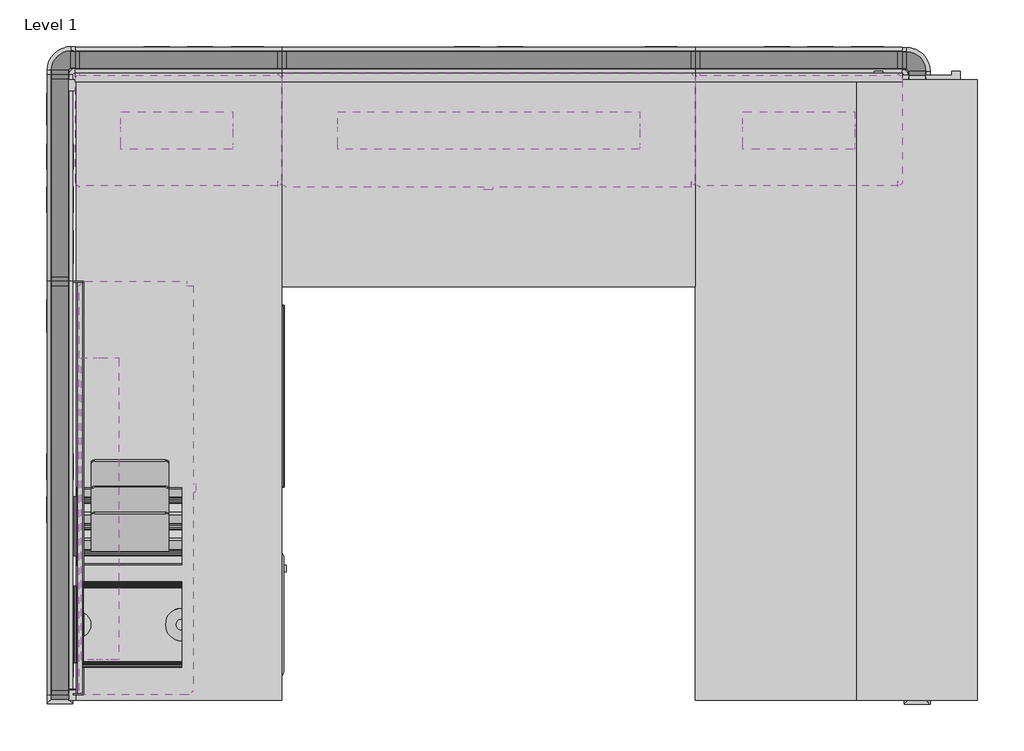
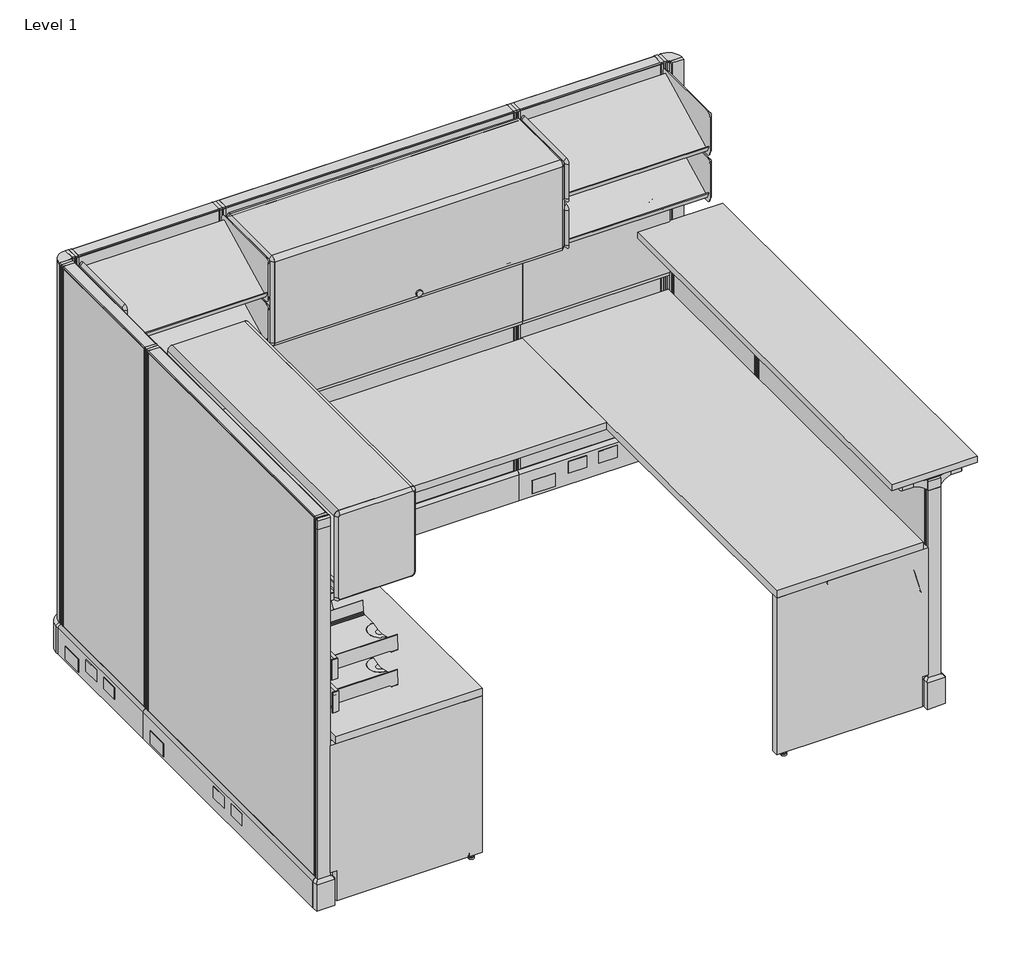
# One storey, incomplete: 35 furniture elements, 4 light fixtures.
"""IFC4 building model written with IfcOpenShell, lengths in millimetres."""

from ifc_helpers import new_model, si_unit, origin, place, context, project, spatial, transform, mapped, element, save
from components import furniture_84c54a78, furniture_988329af, furniture_78394d11, furniture_98713a82, furniture_f221023d, furniture_083a197f, furniture_f3dbc57d, furniture_89f3b497, furniture_1f279dc2, furniture_061b7ed1, furniture_cb78dd66, furniture_cffa716f, furniture_f1bbf21a, furniture_d54c757f, furniture_baef4f76, furniture_a2665887, furniture_75fc3fe0, furniture_aef38361, furniture_bda8002d, furniture_b7c7402d, furniture_d2009061, furniture_0d48e931, furniture_5c2546f9, furniture_ba981915, mid_end_944f84f5, light_fixture_23ee1715, light_fixture_049582d0

model = new_model("IFC4")

# Units and contexts
model_context = context("Model", 3, world=origin())
ifc_project = project(units=[si_unit("LENGTHUNIT", "METRE", prefix="MILLI")], contexts=[model_context])

# Site, building, storey
site = spatial("IfcSite", under=ifc_project)
building = spatial("IfcBuilding", under=site)
storey = spatial("IfcBuildingStorey", under=building, Name="Level 1", Elevation=0.0)

# Furniture
placement = place(None, origin())
furniture_shape = furniture_84c54a78(model_context)
element("IfcFurniture", 1, ObjectType="HermanMiller_QuadrantFiling_G5111_MobilePedestal : 21-1/2\"H x 20\"D x 15\"W BF", at=placement, inside=storey, context=model_context, shape_type="MappedRepresentation", body=[
    mapped(furniture_shape, transform((352.3201808, -1595.217488, 0.0), x_axis=(-3.6732051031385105e-06, 0.9999999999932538, 0.0), y_axis=(-0.9999999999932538, -3.6732051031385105e-06, 0.0), z_axis=(0.0, 0.0, 1.0))),
])
furniture_2_shape = furniture_988329af(model_context)
element("IfcFurniture", 2, ObjectType="HermanMiller_ActionOffice_A1110_Hard-SurfacedPanelStandardBase : 39\"H x 24\"W-N", at=placement, inside=storey, context=model_context, shape_type="MappedRepresentation", body=[
    mapped(furniture_2_shape, transform((2482.8533588, -311.150282, 0.0), x_axis=(1.1019615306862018e-05, -0.9999999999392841, 0.0), y_axis=(0.9999999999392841, 1.1019615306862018e-05, 0.0), z_axis=(0.0, 0.0, 1.0))),
])
furniture_3_shape = furniture_78394d11(model_context)
element("IfcFurniture", 3, ObjectType="HermanMiller_ActionOffice_A1110_Hard-SurfacedPanelStandardBase : 39\"H x 48\"W-N", at=placement, inside=storey, context=model_context, shape_type="MappedRepresentation", body=[
    mapped(furniture_3_shape, transform((2482.8634351, -1225.5502819, 0.0), x_axis=(1.1019615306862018e-05, -0.9999999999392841, 0.0), y_axis=(0.9999999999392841, 1.1019615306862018e-05, 0.0), z_axis=(0.0, 0.0, 1.0))),
])
furniture_4_shape = furniture_98713a82(model_context)
element("IfcFurniture", 4, ObjectType="HermanMiller_ActionOffice_A1110_Hard-SurfacedPanelStandardBase : 67\"H x 24\"W-G", at=placement, inside=storey, context=model_context, shape_type="MappedRepresentation", body=[
    mapped(furniture_4_shape, transform((304.8, 39.2938, 0.0), x_axis=(1.0, 0.0, 0.0), y_axis=(0.0, 1.0, 0.0), z_axis=(0.0, 0.0, 1.0))),
])
element("IfcFurniture", 5, ObjectType="HermanMiller_ActionOffice_A1110_Hard-SurfacedPanelStandardBase : 67\"H x 24\"W-G", at=placement, inside=storey, context=model_context, shape_type="MappedRepresentation", body=[
    mapped(furniture_4_shape, transform((-44.4511196, -308.7023089, 0.0), x_axis=(-3.6732051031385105e-06, 0.9999999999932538, 0.0), y_axis=(-0.9999999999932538, -3.6732051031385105e-06, 0.0), z_axis=(0.0, 0.0, 1.0))),
])
element("IfcFurniture", 6, ObjectType="HermanMiller_ActionOffice_A1110_Hard-SurfacedPanelStandardBase : 67\"H x 24\"W-G", at=placement, inside=storey, context=model_context, shape_type="MappedRepresentation", body=[
    mapped(furniture_4_shape, transform((2133.6, 39.2938, 0.0), x_axis=(1.0, 0.0, 0.0), y_axis=(0.0, 1.0, 0.0), z_axis=(0.0, 0.0, 1.0))),
])
furniture_5_shape = furniture_f221023d(model_context)
element("IfcFurniture", 7, ObjectType="HermanMiller_ActionOffice_A1110_Hard-SurfacedPanelStandardBase : 67\"H x 48\"W-G", at=placement, inside=storey, context=model_context, shape_type="MappedRepresentation", body=[
    mapped(furniture_5_shape, transform((-44.4522392, -1223.1023089, 0.0), x_axis=(-3.6732051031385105e-06, 0.9999999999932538, 0.0), y_axis=(-0.9999999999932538, -3.6732051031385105e-06, 0.0), z_axis=(0.0, 0.0, 1.0))),
])
element("IfcFurniture", 8, ObjectType="HermanMiller_ActionOffice_A1110_Hard-SurfacedPanelStandardBase : 67\"H x 48\"W-G", at=placement, inside=storey, context=model_context, shape_type="MappedRepresentation", body=[
    mapped(furniture_5_shape, transform((1219.2, 39.2938, 0.0), x_axis=(1.0, 0.0, 0.0), y_axis=(0.0, 1.0, 0.0), z_axis=(0.0, 0.0, 1.0))),
])
furniture_6_shape = furniture_083a197f(model_context)
element("IfcFurniture", 9, ObjectType="HermanMiller_ActionOffice_A2310_Sq-EdgeRectangularWorkSurface : 24\"D x 48\"W", at=placement, inside=storey, context=model_context, shape_type="MappedRepresentation", body=[
    mapped(furniture_6_shape, transform((1219.2, -314.325, 0.0), x_axis=(1.0, 0.0, 0.0), y_axis=(0.0, 1.0, 0.0), z_axis=(0.0, 0.0, 1.0))),
])
furniture_7_shape = furniture_f3dbc57d(model_context)
element("IfcFurniture", 10, ObjectType="HermanMiller_ActionOffice_A2310_Sq-EdgeRectangularWorkSurface : 24\"D x 72\"W", at=placement, inside=storey, context=model_context, shape_type="MappedRepresentation", body=[
    mapped(furniture_7_shape, transform((2143.1350764, -933.4534637, 0.0), x_axis=(1.1019615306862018e-05, -0.9999999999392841, 0.0), y_axis=(0.9999999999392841, 1.1019615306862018e-05, 0.0), z_axis=(0.0, 0.0, 1.0))),
])
element("IfcFurniture", 11, ObjectType="HermanMiller_ActionOffice_A2310_Sq-EdgeRectangularWorkSurface : 24\"D x 72\"W", at=placement, inside=storey, context=model_context, shape_type="MappedRepresentation", body=[
    mapped(furniture_7_shape, transform((295.2716412, -933.4488454, 0.0), x_axis=(-3.6732051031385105e-06, 0.9999999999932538, 0.0), y_axis=(-0.9999999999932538, -3.6732051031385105e-06, 0.0), z_axis=(0.0, 0.0, 1.0))),
])
furniture_8_shape = furniture_89f3b497(model_context)
element("IfcFurniture", 12, ObjectType="HermanMiller_ActionOffice_A2830_Sq-EdgeTransactionSurfaceRectangularEnd : 14\"D x 72\"W", at=placement, inside=storey, context=model_context, shape_type="MappedRepresentation", body=[
    mapped(furniture_8_shape, transform((2660.6600763, -933.4483206, 0.0), x_axis=(1.1019615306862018e-05, -0.9999999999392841, 0.0), y_axis=(0.9999999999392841, 1.1019615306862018e-05, 0.0), z_axis=(0.0, 0.0, 1.0))),
])
furniture_9_shape = furniture_1f279dc2(model_context)
element("IfcFurniture", 13, ObjectType="HermanMiller_ActionOffice_A3352_B-StyleFlipperDoorUnit : 15 1/2\"H x 13\"D x 48\"W", at=placement, inside=storey, context=model_context, shape_type="MappedRepresentation", body=[
    mapped(furniture_9_shape, transform((193.1344683, -1223.1017375, 0.0), x_axis=(-3.6732051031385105e-06, 0.9999999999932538, 0.0), y_axis=(-0.9999999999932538, -3.6732051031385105e-06, 0.0), z_axis=(0.0, 0.0, 1.0))),
])
element("IfcFurniture", 14, ObjectType="HermanMiller_ActionOffice_A3352_B-StyleFlipperDoorUnit : 15 1/2\"H x 13\"D x 48\"W", at=placement, inside=storey, context=model_context, shape_type="MappedRepresentation", body=[
    mapped(furniture_9_shape, transform((1219.2, -180.975, 0.0), x_axis=(1.0, 0.0, 0.0), y_axis=(0.0, 1.0, 0.0), z_axis=(0.0, 0.0, 1.0))),
])
furniture_10_shape = furniture_061b7ed1(model_context)
element("IfcFurniture", 15, ObjectType="HermanMiller_ActionOffice_A3410_B-StyleTackboard : 16\"H x 24\"W", at=placement, inside=storey, context=model_context, shape_type="MappedRepresentation", body=[
    mapped(furniture_10_shape, transform((2133.6, -12.7, 0.0), x_axis=(1.0, 0.0, 0.0), y_axis=(0.0, 1.0, 0.0), z_axis=(0.0, 0.0, 1.0))),
])
element("IfcFurniture", 16, ObjectType="HermanMiller_ActionOffice_A3410_B-StyleTackboard : 16\"H x 24\"W", at=placement, inside=storey, context=model_context, shape_type="MappedRepresentation", body=[
    mapped(furniture_10_shape, transform((304.8, -12.7, 0.0), x_axis=(1.0, 0.0, 0.0), y_axis=(0.0, 1.0, 0.0), z_axis=(0.0, 0.0, 1.0))),
])
furniture_11_shape = furniture_cb78dd66(model_context)
element("IfcFurniture", 17, ObjectType="HermanMiller_ActionOffice_A3410_B-StyleTackboard : 16\"H x 48\"W", at=placement, inside=storey, context=model_context, shape_type="MappedRepresentation", body=[
    mapped(furniture_11_shape, transform((1219.2, -12.7, 0.0), x_axis=(1.0, 0.0, 0.0), y_axis=(0.0, 1.0, 0.0), z_axis=(0.0, 0.0, 1.0))),
])
furniture_12_shape = furniture_cffa716f(model_context)
element("IfcFurniture", 18, ObjectType="HermanMiller_ActionOffice_A3610_ToolBar : 4\"H x 48\"W", at=placement, inside=storey, context=model_context, shape_type="MappedRepresentation", body=[
    mapped(furniture_12_shape, transform((7.9352604, -1223.1023556, 0.0), x_axis=(-3.6732051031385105e-06, 0.9999999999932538, 0.0), y_axis=(-0.9999999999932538, -3.6732051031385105e-06, 0.0), z_axis=(0.0, 0.0, 1.0))),
])
furniture_13_shape = furniture_f1bbf21a(model_context)
element("IfcFurniture", 19, ObjectType="HermanMiller_ActionOffice_A3610_ToolBar : 4\"H x 48\"W", at=placement, inside=storey, context=model_context, shape_type="MappedRepresentation", body=[
    mapped(furniture_13_shape, transform((12.1594683, -1223.1023556, 0.0), x_axis=(-3.6732051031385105e-06, 0.9999999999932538, 0.0), y_axis=(-0.9999999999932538, -3.6732051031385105e-06, 0.0), z_axis=(0.0, 0.0, 1.0))),
])
furniture_14_shape = furniture_d54c757f(model_context)
element("IfcFurniture", 20, ObjectType="HermanMiller_ThrivePortfolio_Y5010_PencilDrawer : 2\"H x 16\"D x 21\"W", at=placement, inside=storey, context=model_context, shape_type="MappedRepresentation", body=[
    mapped(furniture_14_shape, transform((409.6909012, -951.6066781, 0.0), x_axis=(-3.6732051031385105e-06, 0.9999999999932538, 0.0), y_axis=(-0.9999999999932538, -3.6732051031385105e-06, 0.0), z_axis=(0.0, 0.0, 1.0))),
])
furniture_15_shape = furniture_baef4f76(model_context)
element("IfcFurniture", 21, ObjectType="HermanMiller_ThrivePortfolio_Y7216_PaperTray : 3\"H x 12\"D x 10\"W", at=placement, inside=storey, context=model_context, shape_type="MappedRepresentation", body=[
    mapped(furniture_15_shape, transform((160.3700535, -1625.4470344, 0.0), x_axis=(-3.6732051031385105e-06, 0.9999999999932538, 0.0), y_axis=(-0.9999999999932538, -3.6732051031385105e-06, 0.0), z_axis=(0.0, 0.0, 1.0))),
])
furniture_16_shape = furniture_a2665887(model_context)
element("IfcFurniture", 22, ObjectType="HermanMiller_ThrivePortfolio_Y7216_PaperTray : 3\"H x 12\"D x 10\"W", at=placement, inside=storey, context=model_context, shape_type="MappedRepresentation", body=[
    mapped(furniture_16_shape, transform((160.3700535, -1625.4470344, 0.0), x_axis=(-3.6732051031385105e-06, 0.9999999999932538, 0.0), y_axis=(-0.9999999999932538, -3.6732051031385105e-06, 0.0), z_axis=(0.0, 0.0, 1.0))),
])
furniture_17_shape = furniture_75fc3fe0(model_context)
element("IfcFurniture", 23, ObjectType="HermanMiller_ThrivePortfolio_Y7218_DiagonalTray : 8 1/2\"H x 12\"D x 13\"W", at=placement, inside=storey, context=model_context, shape_type="MappedRepresentation", body=[
    mapped(furniture_17_shape, transform((160.3700945, -1335.4326173, 0.0), x_axis=(-3.6732051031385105e-06, 0.9999999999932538, 0.0), y_axis=(-0.9999999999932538, -3.6732051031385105e-06, 0.0), z_axis=(0.0, 0.0, 1.0))),
])
furniture_18_shape = furniture_aef38361(model_context)
element("IfcFurniture", 24, ObjectType="HermanMiller_ActionOffice_A3220_B-StyleStorageDisplay : Display 13\"D x 24\"W", at=placement, inside=storey, context=model_context, shape_type="MappedRepresentation", body=[
    mapped(furniture_18_shape, transform((428.7420045, -180.975, 0.0), x_axis=(1.0, 0.0, 0.0), y_axis=(0.0, 1.0, 0.0), z_axis=(0.0, 0.0, 1.0))),
])
element("IfcFurniture", 25, ObjectType="HermanMiller_ActionOffice_A3220_B-StyleStorageDisplay : Display 13\"D x 24\"W", at=placement, inside=storey, context=model_context, shape_type="MappedRepresentation", body=[
    mapped(furniture_18_shape, transform((2257.5420045, -180.975, 0.0), x_axis=(1.0, 0.0, 0.0), y_axis=(0.0, 1.0, 0.0), z_axis=(0.0, 0.0, 1.0))),
])
furniture_19_shape = furniture_bda8002d(model_context)
element("IfcFurniture", 26, ObjectType="HermanMiller_ActionOffice_A3220_B-StyleStorageDisplay : Display 13\"D x 24\"W", at=placement, inside=storey, context=model_context, shape_type="MappedRepresentation", body=[
    mapped(furniture_19_shape, transform((428.7420045, -180.975, 0.0), x_axis=(1.0, 0.0, 0.0), y_axis=(0.0, 1.0, 0.0), z_axis=(0.0, 0.0, 1.0))),
])
element("IfcFurniture", 27, ObjectType="HermanMiller_ActionOffice_A3220_B-StyleStorageDisplay : Display 13\"D x 24\"W", at=placement, inside=storey, context=model_context, shape_type="MappedRepresentation", body=[
    mapped(furniture_19_shape, transform((2257.5420045, -180.975, 0.0), x_axis=(1.0, 0.0, 0.0), y_axis=(0.0, 1.0, 0.0), z_axis=(0.0, 0.0, 1.0))),
])
furniture_20_shape = furniture_b7c7402d(model_context)
element("IfcFurniture", 28, ObjectType="HermanMiller_ActionOffice_A2380_WorkSuraceSupportPanelEnd : 24\"D", at=placement, inside=storey, context=model_context, shape_type="MappedRepresentation", body=[
    mapped(furniture_20_shape, transform((609.6, -1847.8476908, 0.0), x_axis=(-3.6732051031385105e-06, 0.9999999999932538, 0.0), y_axis=(-0.9999999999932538, -3.6732051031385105e-06, 0.0), z_axis=(0.0, 0.0, 1.0))),
])
element("IfcFurniture", 29, ObjectType="HermanMiller_ActionOffice_A2380_WorkSuraceSupportPanelEnd : 24\"D", at=placement, inside=storey, context=model_context, shape_type="MappedRepresentation", body=[
    mapped(furniture_20_shape, transform((1828.8198378, -1819.2824893, 0.0), x_axis=(1.1019615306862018e-05, -0.9999999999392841, 0.0), y_axis=(0.9999999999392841, 1.1019615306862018e-05, 0.0), z_axis=(0.0, 0.0, 1.0))),
])
furniture_21_shape = furniture_d2009061(model_context)
element("IfcFurniture", 30, ObjectType="HermanMiller_ActionOffice_AO259_AO272_FinishedEndChangeOfHeight : 32\"H Panel/Conn", at=placement, inside=storey, context=model_context, shape_type="MappedRepresentation", body=[
    mapped(furniture_21_shape, transform((2403.2797402, -73.2221555, 0.0), x_axis=(1.1019615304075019e-05, -0.9999999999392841, 0.0), y_axis=(0.9999999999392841, 1.1019615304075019e-05, 0.0), z_axis=(0.0, 0.0, 1.0))),
])
furniture_22_shape = furniture_0d48e931(model_context)
element("IfcFurniture", 31, ObjectType="HermanMiller_ActionOffice_A1271_FinishedEndStandardBase : 39\"H Trans End Spt", at=placement, inside=storey, context=model_context, shape_type="MappedRepresentation", body=[
    mapped(furniture_22_shape, transform((4931.5870679, 149.7327533, 0.0), x_axis=(1.1019615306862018e-05, -0.9999999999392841, 0.0), y_axis=(0.9999999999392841, 1.1019615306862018e-05, 0.0), z_axis=(0.0, 0.0, 1.0))),
])
furniture_23_shape = furniture_5c2546f9(model_context)
element("IfcFurniture", 32, ObjectType="HermanMiller_ActionOffice_A1271_FinishedEndStandardBase : 67\"H", at=placement, inside=storey, context=model_context, shape_type="MappedRepresentation", body=[
    mapped(furniture_23_shape, transform((2404.2669152, 152.1803531, 0.0), x_axis=(1.1019615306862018e-05, -0.9999999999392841, 0.0), y_axis=(0.9999999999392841, 1.1019615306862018e-05, 0.0), z_axis=(0.0, 0.0, 1.0))),
])
furniture_24_shape = furniture_ba981915(model_context)
element("IfcFurniture", 33, ObjectType="HermanMiller_ActionOffice_A1220_90ConnectorStandardBase : 67\"H 2-Way-Hard", at=placement, inside=storey, context=model_context, shape_type="MappedRepresentation", body=[
    mapped(furniture_24_shape, transform((-29.9361986, 34.1977444, 0.0), x_axis=(-3.6732051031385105e-06, 0.9999999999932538, 0.0), y_axis=(-0.9999999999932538, -3.6732051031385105e-06, 0.0), z_axis=(0.0, 0.0, 1.0))),
])
element("IfcFurniture", 34, ObjectType="HermanMiller_ActionOffice_A1220_90ConnectorStandardBase : 67\"H 2-Way-Hard", at=placement, inside=storey, context=model_context, shape_type="MappedRepresentation", body=[
    mapped(furniture_24_shape, transform((2476.5, 23.5860565, 0.0), x_axis=(1.0, 0.0, 0.0), y_axis=(0.0, 1.0, 0.0), z_axis=(0.0, 0.0, 1.0))),
])
mid_end_shape = mid_end_944f84f5(model_context)
element("IfcFurniture", 35, ObjectType="HermanMiller_ActionOffice_AO460-AO464_TransactionSurfaceSupport : Mid-End", at=placement, inside=storey, context=model_context, shape_type="MappedRepresentation", body=[
    mapped(mid_end_shape, transform((2473.3308312, -1568.4503149, 0.0), x_axis=(-3.6732051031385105e-06, 0.9999999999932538, 0.0), y_axis=(-0.9999999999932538, -3.6732051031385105e-06, 0.0), z_axis=(0.0, 0.0, 1.0))),
])

# Light fixtures
light_fixture_shape = light_fixture_23ee1715(model_context)
element("IfcLightFixture", 36, ObjectType="HermanMiller_SupplementalProducts_G6136_UtilityTaskLight : AO Etho Canvas 24W", at=placement, inside=storey, context=model_context, shape_type="MappedRepresentation", body=[
    mapped(light_fixture_shape, transform((299.95876, -168.275, 0.0), x_axis=(1.0, 0.0, 0.0), y_axis=(0.0, 1.0, 0.0), z_axis=(0.0, 0.0, 1.0))),
])
element("IfcLightFixture", 37, ObjectType="HermanMiller_SupplementalProducts_G6136_UtilityTaskLight : AO Etho Canvas 24W", at=placement, inside=storey, context=model_context, shape_type="MappedRepresentation", body=[
    mapped(light_fixture_shape, transform((2133.6, -168.275, 0.0), x_axis=(1.0, 0.0, 0.0), y_axis=(0.0, 1.0, 0.0), z_axis=(0.0, 0.0, 1.0))),
])
light_fixture_2_shape = light_fixture_049582d0(model_context)
element("IfcLightFixture", 38, ObjectType="HermanMiller_SupplementalProducts_G6136_UtilityTaskLight : AO Etho Canvas 42W", at=placement, inside=storey, context=model_context, shape_type="MappedRepresentation", body=[
    mapped(light_fixture_2_shape, transform((73.0233047, -1284.7316618, 0.0), x_axis=(-3.6732051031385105e-06, 0.9999999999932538, 0.0), y_axis=(-0.9999999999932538, -3.6732051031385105e-06, 0.0), z_axis=(0.0, 0.0, 1.0))),
])
element("IfcLightFixture", 39, ObjectType="HermanMiller_SupplementalProducts_G6136_UtilityTaskLight : AO Etho Canvas 42W", at=placement, inside=storey, context=model_context, shape_type="MappedRepresentation", body=[
    mapped(light_fixture_2_shape, transform((1219.2, -168.275, 0.0), x_axis=(1.0, 0.0, 0.0), y_axis=(0.0, 1.0, 0.0), z_axis=(0.0, 0.0, 1.0))),
])

save(model, "model.ifc")
